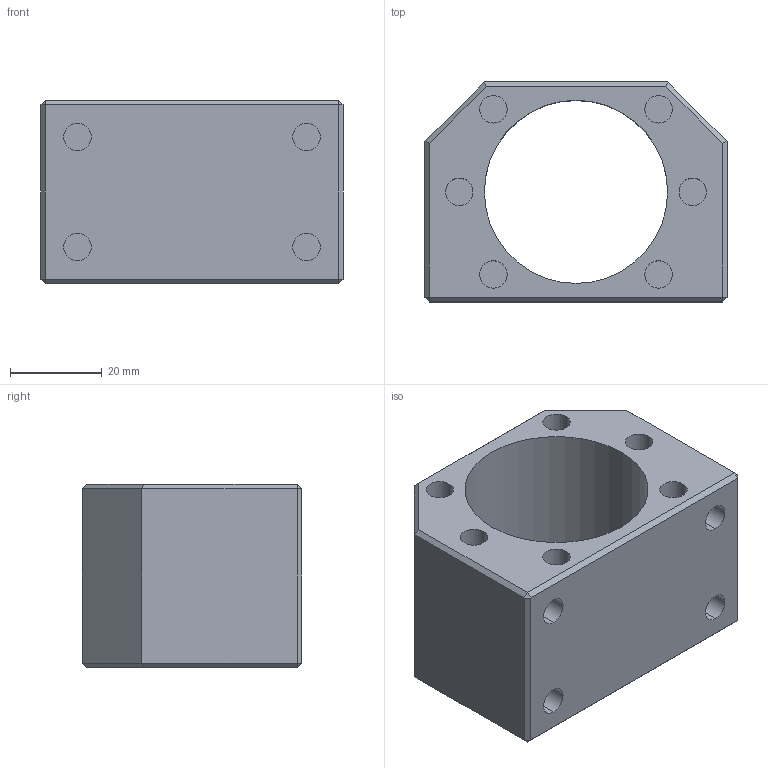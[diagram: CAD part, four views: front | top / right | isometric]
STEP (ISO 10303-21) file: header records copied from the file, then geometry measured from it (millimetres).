
FILE_DESCRIPTION (( 'STEP AP214' ), '1' );
FILE_NAME ('2.4025 Kuulamutterin kotelo DSG25H.STEP', '2024-05-06T08:18:50', ( '' ), ( '' ), 'SwSTEP 2.0', 'SolidWorks 2024', '' );
FILE_SCHEMA (( 'AUTOMOTIVE_DESIGN' ));
Length unit declared in the file: millimetre
Products named in the file (1): 2.4025 Kuulamutterin kotelo DSG25H
Bounding box: 66 x 48 x 40 mm (x, y, z)
Volume: 65179.2 mm3; surface area: 19550.5 mm2
Topology: 1 solids, 1 shells, 58 faces, 118 edges, 72 vertices
Faces by surface type: plane 36, cylinder 22
Entity records: 1533 total; most frequent: DIRECTION 280, CARTESIAN_POINT 249, ORIENTED_EDGE 236, EDGE_CURVE 118, AXIS2_PLACEMENT_3D 103, VECTOR 74, LINE 74, VERTEX_POINT 72
